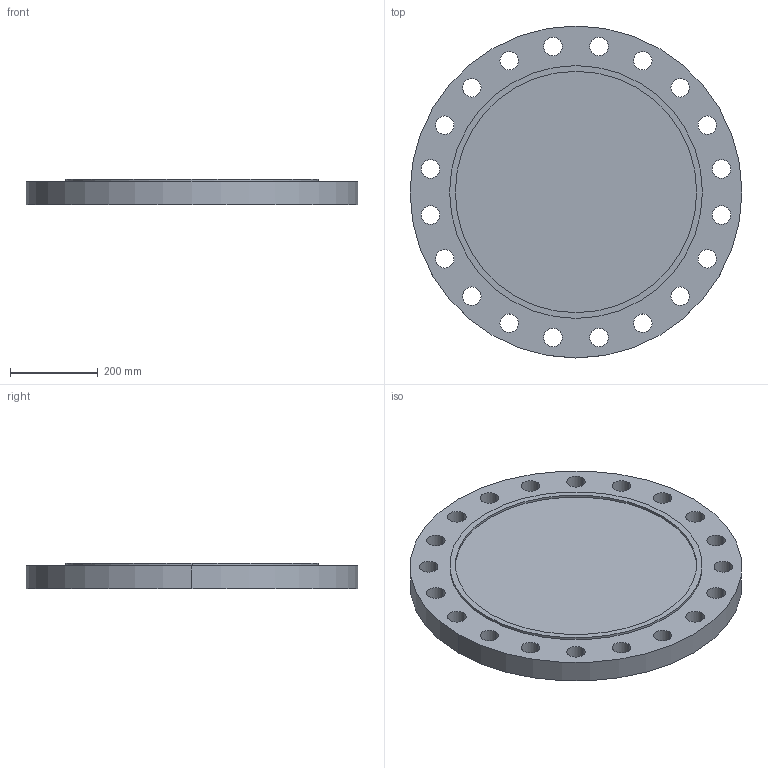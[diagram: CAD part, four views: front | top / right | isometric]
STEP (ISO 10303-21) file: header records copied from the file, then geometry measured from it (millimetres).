
FILE_DESCRIPTION (( 'STEP AP214' ), '1' );
FILE_NAME ('PN40 DN500 Type 05 - Type C Face.STEP', '2018-12-29T01:31:38', ( '' ), ( '' ), 'SwSTEP 2.0', 'SolidWorks 2019', '' );
FILE_SCHEMA (( 'AUTOMOTIVE_DESIGN' ));
Length unit declared in the file: millimetre
Products named in the file (1): PN40 DN500 Type 05 - Type C Face
Bounding box: 755 x 755 x 57 mm (x, y, z)
Volume: 21755607.3 mm3; surface area: 1117455.1 mm2
Topology: 1 solids, 1 shells, 50 faces, 138 edges, 92 vertices
Faces by surface type: cylinder 46, plane 4
Entity records: 1768 total; most frequent: DIRECTION 332, CARTESIAN_POINT 281, ORIENTED_EDGE 276, AXIS2_PLACEMENT_3D 143, EDGE_CURVE 138, CIRCLE 92, EDGE_LOOP 92, VERTEX_POINT 92
